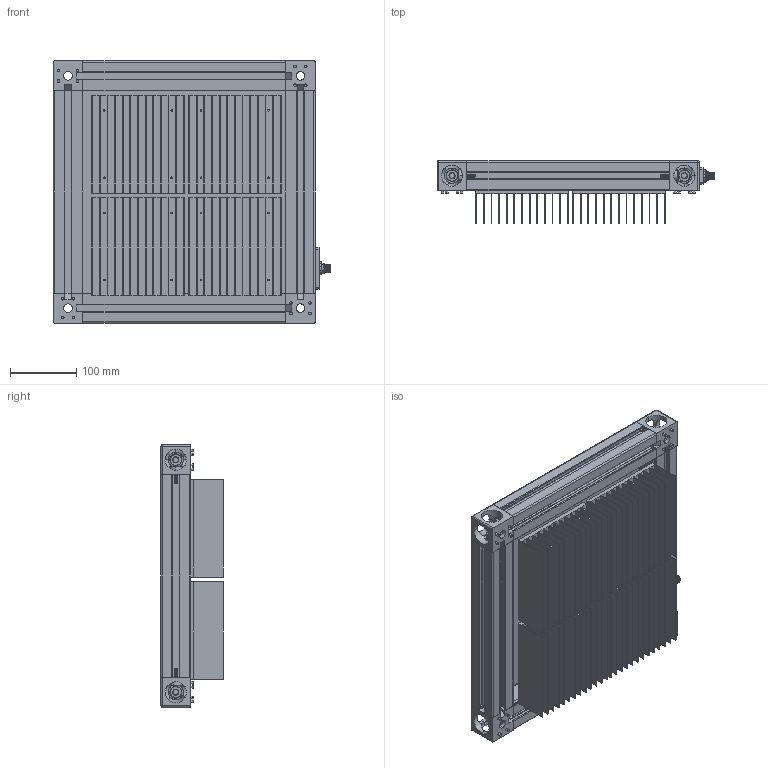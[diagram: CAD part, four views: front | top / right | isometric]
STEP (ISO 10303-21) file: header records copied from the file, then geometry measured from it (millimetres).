
FILE_DESCRIPTION (( 'STEP AP214' ), '1' );
FILE_NAME ('MOBL 300x300.STEP', '2015-05-13T21:44:10', ( '' ), ( '' ), 'SwSTEP 2.0', 'SolidWorks 2015', '' );
FILE_SCHEMA (( 'AUTOMOTIVE_DESIGN' ));
Length unit declared in the file: millimetre
Products named in the file (12): 4545-EXT01-R2_300; Bosch Gusset - 3 842 523 874; 93070A241_93070A241; MOBL 300x300; HOBL; Input Assembly; M12 Nut; Screw holder; Screws -- short_FB08.0-015; Input Mounting Plate_A; M12_Male; Lens_306x306
Assembly tree (29 placements, depth 3):
  MOBL 300x300
    93070A241_93070A241  x8
    Bosch Gusset - 3 842 523 874  x4
    4545-EXT01-R2_300  x4
    Lens_306x306
    Input Assembly
      M12_Male
      Input Mounting Plate_A
      Screws -- short_FB08.0-015  x2
      Screw holder  x2
      M12 Nut
    HOBL  x4
Bounding box: 419.47 x 93.8 x 396 mm (x, y, z)
Volume: 2327274.3 mm3; surface area: 1830576.5 mm2
Topology: 28 solids, 29 shells, 2190 faces, 5942 edges, 3884 vertices
Faces by surface type: cylinder 1092, plane 848, cone 156, bspline 86, sphere 4, torus 4
Entity records: 47797 total; most frequent: CARTESIAN_POINT 26878, ORIENTED_EDGE 4022, DIRECTION 3564, EDGE_CURVE 2011, VERTEX_POINT 1319, AXIS2_PLACEMENT_3D 1272, LINE 1020, VECTOR 1020
